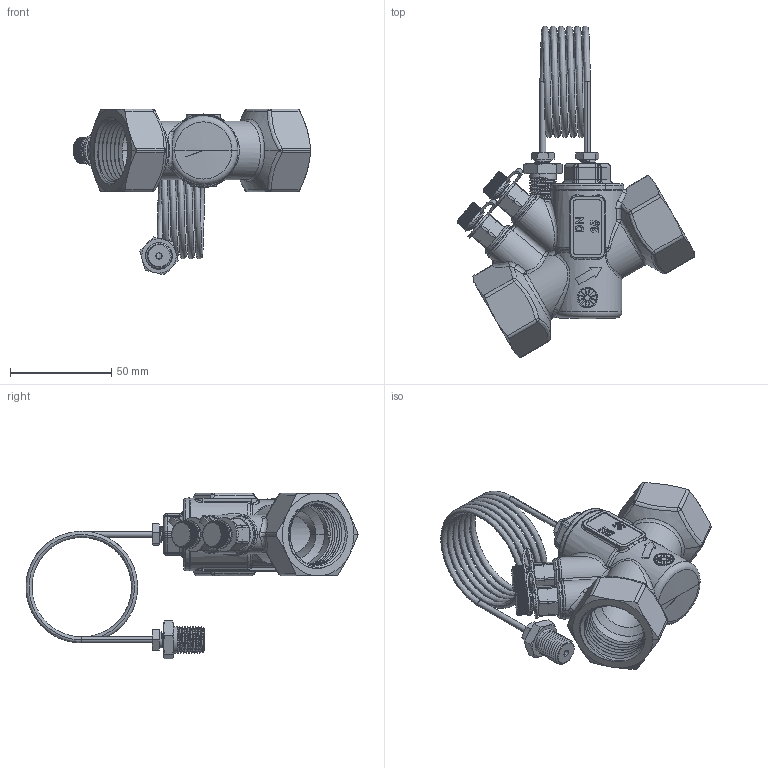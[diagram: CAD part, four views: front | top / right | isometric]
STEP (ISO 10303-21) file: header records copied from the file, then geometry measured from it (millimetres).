
FILE_DESCRIPTION (( 'STEP AP203' ), '1' );
FILE_NAME ('SDP.10 ABHouse DN25 ISO FF PTplugs.step', '2024-04-12T07:25:58', ( '' ), ( '' ), 'SwSTEP 2.0', 'SolidWorks 2023', '' );
FILE_SCHEMA (( 'CONFIG_CONTROL_DESIGN' ));
Length unit declared in the file: millimetre
Products named in the file (1): SDP.10 ABHouse DN25 ISO FF PTplugs
Bounding box: 117.72 x 164.31 x 82.12 mm (x, y, z)
Surface area: 46636.3 mm2 (no closed solid volume)
Topology: 0 solids, 55 shells, 1963 faces, 11122 edges, 8495 vertices
Faces by surface type: bspline 820, cylinder 688, plane 243, cone 126, torus 53, sphere 33
Entity records: 324748 total; most frequent: CARTESIAN_POINT 262506, ORIENTED_EDGE 15363, EDGE_CURVE 11092, B_SPLINE_CURVE_WITH_KNOTS 8899, VERTEX_POINT 8493, DIRECTION 5296, AXIS2_PLACEMENT_3D 2190, EDGE_LOOP 2036
